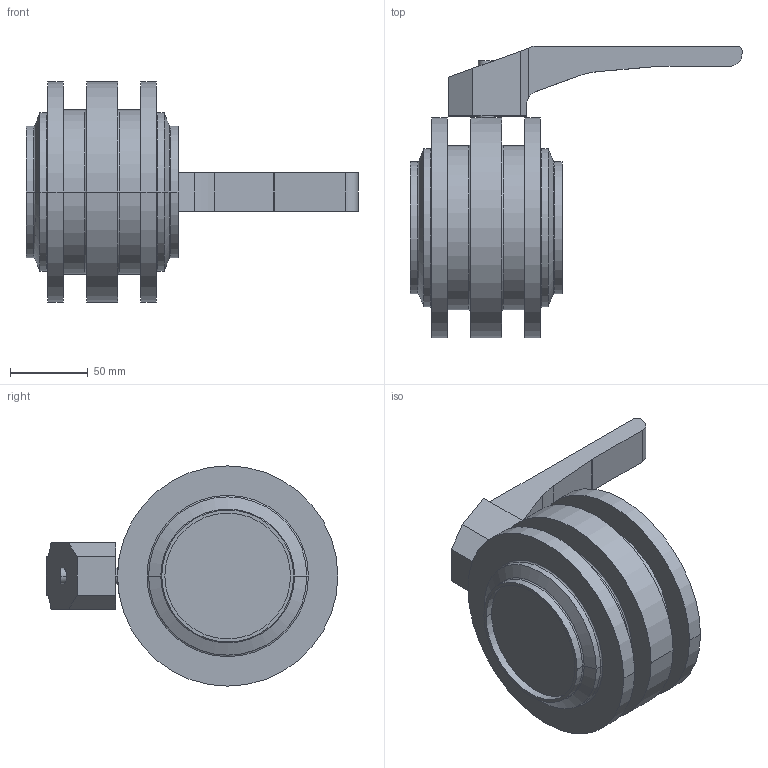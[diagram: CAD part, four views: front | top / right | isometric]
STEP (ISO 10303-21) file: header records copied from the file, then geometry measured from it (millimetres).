
FILE_DESCRIPTION(('OneSpaceDesigner STEP Export'),'2;1');
FILE_NAME('SVS1F-80-H-12S.stp','2007-05-29T11:37:02',(''),(''),'OneSpace Designer STEP processor for AP214 (Solid Model)','OneSpace Modeling 15.00 06-Feb-2007 (C) CoCreate Software GmbH','');
FILE_SCHEMA(('AUTOMOTIVE_DESIGN { 1 0 10303 214 1 1 1 1 }'));
Length unit declared in the file: millimetre
Products named in the file (3): SVS1F-80-H-12S; Handhebel-SV-40-100; SVS1F-80-H-12S-vereint
Assembly tree (2 placements, depth 2):
  SVS1F-80-H-12S-vereint
    Handhebel-SV-40-100
    SVS1F-80-H-12S
Bounding box: 214 x 188 x 142 mm (x, y, z)
Volume: 1166375.4 mm3; surface area: 117092.3 mm2
Topology: 2 solids, 2 shells, 76 faces, 167 edges, 104 vertices
Faces by surface type: cylinder 31, plane 29, torus 12, cone 4
Entity records: 2302 total; most frequent: CARTESIAN_POINT 693, ORIENTED_EDGE 334, DIRECTION 303, EDGE_CURVE 167, AXIS2_PLACEMENT_3D 113, VERTEX_POINT 104, EDGE_LOOP 85, VECTOR 77
